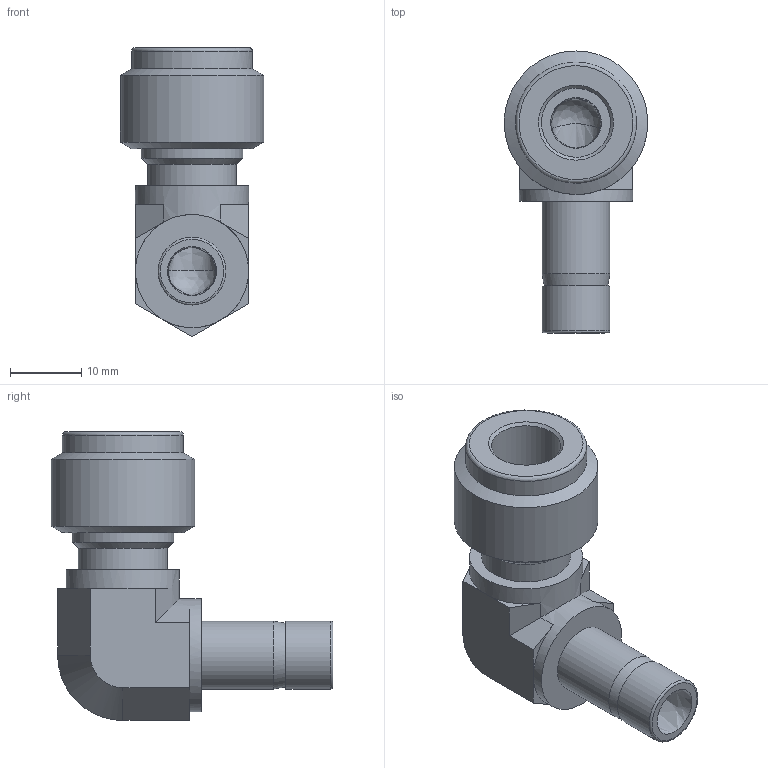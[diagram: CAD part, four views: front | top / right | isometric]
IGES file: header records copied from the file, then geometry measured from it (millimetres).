
Global section: file name: SAE-6; native system: Autodesk Inventor 2016; preprocessor: unknown; author: DESIGNPC2; date: 20151113.101548; units: millimetre
Bounding box: 20.13 x 39.58 x 40.59 mm (x, y, z)
Volume: 8028.1 mm3; surface area: 4927.4 mm2
Topology: 1 solids, 1 shells, 94 faces, 229 edges, 141 vertices
Faces by surface type: bspline 94
